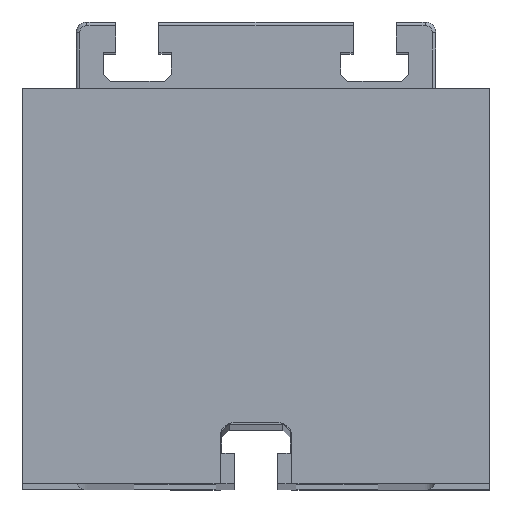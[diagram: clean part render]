
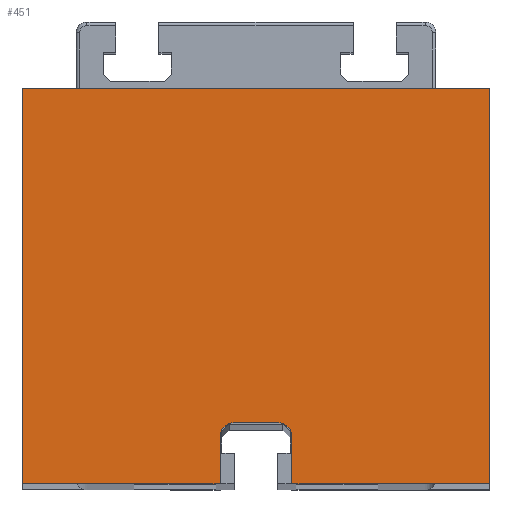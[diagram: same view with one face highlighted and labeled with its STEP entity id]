
A CAD part, top view. The second image highlights one B-rep face of the part: STEP entity #451.
In plain terms, the highlighted planar face has unit normal (0, 0, 1).
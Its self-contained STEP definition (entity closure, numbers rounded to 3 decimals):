
#19 = EDGE_CURVE ( 'NONE', #1842, #2212, #589, .T. ) ;
#89 = LINE ( 'NONE', #215, #4673 ) ;
#215 = CARTESIAN_POINT ( 'NONE',  ( -65., 110., 20. ) ) ;
#267 = ORIENTED_EDGE ( 'NONE', *, *, #4262, .T. ) ;
#449 = VERTEX_POINT ( 'NONE', #5686 ) ;
#451 = ADVANCED_FACE ( 'NONE', ( #902 ), #5304, .F. ) ;
#463 = DIRECTION ( 'NONE',  ( -1., 0., 0. ) ) ;
#466 = CARTESIAN_POINT ( 'NONE',  ( 10., 0., 20. ) ) ;
#486 = CARTESIAN_POINT ( 'NONE',  ( 65., 0., 20. ) ) ;
#526 = EDGE_CURVE ( 'NONE', #2761, #1755, #3357, .T. ) ;
#527 = VECTOR ( 'NONE', #1935, 1000. ) ;
#550 = CARTESIAN_POINT ( 'NONE',  ( -6., 17., 20. ) ) ;
#589 = LINE ( 'NONE', #2542, #1899 ) ;
#697 = CIRCLE ( 'NONE', #5090, 4. ) ;
#807 = DIRECTION ( 'NONE',  ( 1., 0., 0. ) ) ;
#822 = CARTESIAN_POINT ( 'NONE',  ( -10., 13., 20. ) ) ;
#862 = CARTESIAN_POINT ( 'NONE',  ( 65., 0., 20. ) ) ;
#902 = FACE_OUTER_BOUND ( 'NONE', #4467, .T. ) ;
#910 = ORIENTED_EDGE ( 'NONE', *, *, #4576, .T. ) ;
#928 = VERTEX_POINT ( 'NONE', #4009 ) ;
#934 = CARTESIAN_POINT ( 'NONE',  ( 6., 17., 20. ) ) ;
#938 = CARTESIAN_POINT ( 'NONE',  ( 6., 13., 20. ) ) ;
#1234 = ORIENTED_EDGE ( 'NONE', *, *, #4856, .T. ) ;
#1316 = DIRECTION ( 'NONE',  ( 1., 0., 0. ) ) ;
#1622 = DIRECTION ( 'NONE',  ( -1., 0., 0. ) ) ;
#1696 = VECTOR ( 'NONE', #3213, 1000. ) ;
#1702 = VECTOR ( 'NONE', #6257, 1000. ) ;
#1705 = DIRECTION ( 'NONE',  ( -1., 0., 0. ) ) ;
#1755 = VERTEX_POINT ( 'NONE', #934 ) ;
#1826 = DIRECTION ( 'NONE',  ( 0., 1., 0. ) ) ;
#1842 = VERTEX_POINT ( 'NONE', #466 ) ;
#1875 = EDGE_CURVE ( 'NONE', #2650, #928, #5437, .T. ) ;
#1899 = VECTOR ( 'NONE', #4488, 1000. ) ;
#1935 = DIRECTION ( 'NONE',  ( 0., -1., 0. ) ) ;
#1953 = LINE ( 'NONE', #486, #3163 ) ;
#2212 = VERTEX_POINT ( 'NONE', #862 ) ;
#2227 = LINE ( 'NONE', #822, #1696 ) ;
#2350 = DIRECTION ( 'NONE',  ( 0., 0., -1. ) ) ;
#2352 = CARTESIAN_POINT ( 'NONE',  ( 6., 13., 20. ) ) ;
#2369 = ORIENTED_EDGE ( 'NONE', *, *, #5251, .T. ) ;
#2379 = LINE ( 'NONE', #6270, #5268 ) ;
#2532 = VERTEX_POINT ( 'NONE', #5319 ) ;
#2542 = CARTESIAN_POINT ( 'NONE',  ( 10., 0., 20. ) ) ;
#2556 = EDGE_CURVE ( 'NONE', #2212, #5030, #1953, .T. ) ;
#2638 = VECTOR ( 'NONE', #807, 1000. ) ;
#2650 = VERTEX_POINT ( 'NONE', #5929 ) ;
#2674 = VERTEX_POINT ( 'NONE', #4931 ) ;
#2761 = VERTEX_POINT ( 'NONE', #550 ) ;
#2795 = DIRECTION ( 'NONE',  ( 0., 0., -1. ) ) ;
#2823 = ORIENTED_EDGE ( 'NONE', *, *, #3289, .T. ) ;
#3141 = CARTESIAN_POINT ( 'NONE',  ( 65., 110., 20. ) ) ;
#3163 = VECTOR ( 'NONE', #1826, 1000. ) ;
#3213 = DIRECTION ( 'NONE',  ( 0., 1., 0. ) ) ;
#3289 = EDGE_CURVE ( 'NONE', #449, #1842, #2379, .T. ) ;
#3357 = LINE ( 'NONE', #6186, #2638 ) ;
#3363 = CARTESIAN_POINT ( 'NONE',  ( -65., 0., 20. ) ) ;
#3438 = AXIS2_PLACEMENT_3D ( 'NONE', #938, #2350, #463 ) ;
#3824 = ORIENTED_EDGE ( 'NONE', *, *, #1875, .T. ) ;
#4009 = CARTESIAN_POINT ( 'NONE',  ( -65., 0., 20. ) ) ;
#4211 = LINE ( 'NONE', #4312, #1702 ) ;
#4214 = ORIENTED_EDGE ( 'NONE', *, *, #526, .T. ) ;
#4262 = EDGE_CURVE ( 'NONE', #2532, #2674, #2227, .T. ) ;
#4270 = CIRCLE ( 'NONE', #5408, 4. ) ;
#4312 = CARTESIAN_POINT ( 'NONE',  ( -65., 0., 20. ) ) ;
#4355 = DIRECTION ( 'NONE',  ( 0., -1., 0. ) ) ;
#4467 = EDGE_LOOP ( 'NONE', ( #3824, #1234, #267, #2369, #4214, #5199, #2823, #5177, #5736, #910 ) ) ;
#4488 = DIRECTION ( 'NONE',  ( 1., 0., 0. ) ) ;
#4576 = EDGE_CURVE ( 'NONE', #5030, #2650, #89, .T. ) ;
#4673 = VECTOR ( 'NONE', #1622, 1000. ) ;
#4688 = DIRECTION ( 'NONE',  ( 0., 0., -1. ) ) ;
#4856 = EDGE_CURVE ( 'NONE', #928, #2532, #4211, .T. ) ;
#4931 = CARTESIAN_POINT ( 'NONE',  ( -10., 13., 20. ) ) ;
#5030 = VERTEX_POINT ( 'NONE', #3141 ) ;
#5090 = AXIS2_PLACEMENT_3D ( 'NONE', #2352, #4688, #1705 ) ;
#5177 = ORIENTED_EDGE ( 'NONE', *, *, #19, .T. ) ;
#5199 = ORIENTED_EDGE ( 'NONE', *, *, #5297, .T. ) ;
#5204 = CARTESIAN_POINT ( 'NONE',  ( -6., 13., 20. ) ) ;
#5251 = EDGE_CURVE ( 'NONE', #2674, #2761, #4270, .T. ) ;
#5268 = VECTOR ( 'NONE', #4355, 1000. ) ;
#5297 = EDGE_CURVE ( 'NONE', #1755, #449, #697, .T. ) ;
#5304 = PLANE ( 'NONE',  #3438 ) ;
#5319 = CARTESIAN_POINT ( 'NONE',  ( -10., 0., 20. ) ) ;
#5408 = AXIS2_PLACEMENT_3D ( 'NONE', #5204, #2795, #1316 ) ;
#5437 = LINE ( 'NONE', #3363, #527 ) ;
#5686 = CARTESIAN_POINT ( 'NONE',  ( 10., 13., 20. ) ) ;
#5736 = ORIENTED_EDGE ( 'NONE', *, *, #2556, .T. ) ;
#5929 = CARTESIAN_POINT ( 'NONE',  ( -65., 110., 20. ) ) ;
#6186 = CARTESIAN_POINT ( 'NONE',  ( -6., 17., 20. ) ) ;
#6257 = DIRECTION ( 'NONE',  ( 1., 0., 0. ) ) ;
#6270 = CARTESIAN_POINT ( 'NONE',  ( 10., 13., 20. ) ) ;
